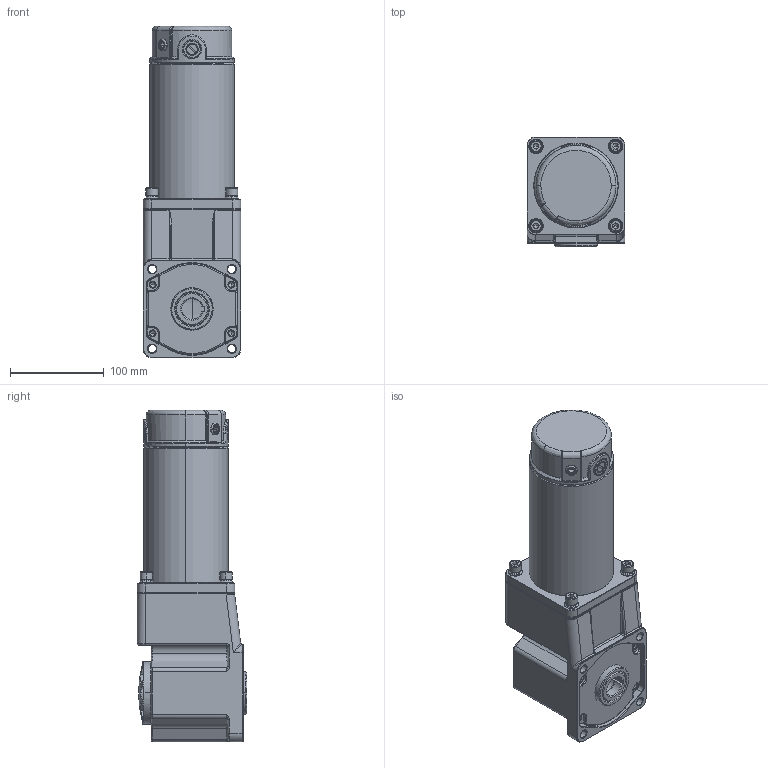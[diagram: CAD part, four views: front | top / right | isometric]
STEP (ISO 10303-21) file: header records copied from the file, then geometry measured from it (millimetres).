
FILE_DESCRIPTION (( 'STEP AP203' ), '1' );
FILE_NAME ('100-145»ú¿ÇRC.STEP', '2020-04-15T06:46:27', ( '' ), ( '' ), 'SwSTEP 2.0', 'SolidWorks 2018', '' );
FILE_SCHEMA (( 'CONFIG_CONTROL_DESIGN' ));
Length unit declared in the file: millimetre
Products named in the file (8): TAN_1; PRT0001_1_1; H_1; JK_1; LUO_1; 6RC; Z6D300W_1; 100-145儂褲RC
Assembly tree (9 placements, depth 3):
  100-145儂褲RC
    Z6D300W_1
      H_1
      LUO_1  x2
      TAN_1  x2
      JK_1
      PRT0001_1_1
    6RC
Bounding box: 104 x 117 x 353.5 mm (x, y, z)
Volume: 1498503.8 mm3; surface area: 355941.2 mm2
Topology: 30 solids, 32 shells, 2646 faces, 6718 edges, 4097 vertices
Faces by surface type: bspline 727, plane 710, cylinder 685, cone 524
Entity records: 127733 total; most frequent: CARTESIAN_POINT 72888, ORIENTED_EDGE 13012, DIRECTION 8932, EDGE_CURVE 6506, VERTEX_POINT 4021, AXIS2_PLACEMENT_3D 3507, EDGE_LOOP 2709, FACE_OUTER_BOUND 2594
